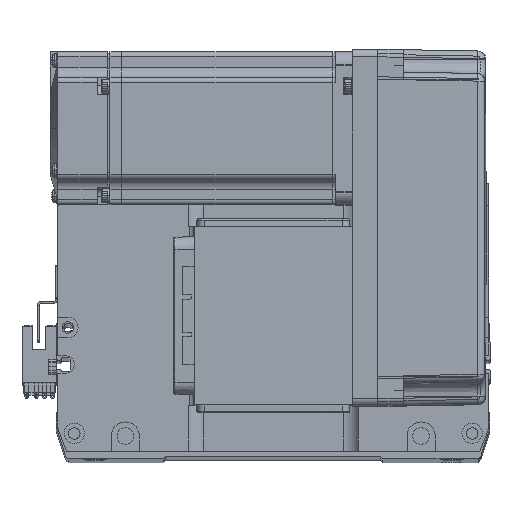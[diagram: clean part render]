
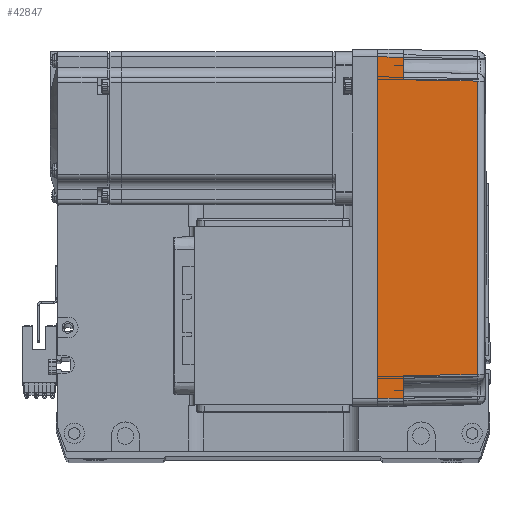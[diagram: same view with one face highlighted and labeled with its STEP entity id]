
A CAD part, top view. The second image highlights one B-rep face of the part: STEP entity #42847.
In plain terms, the highlighted planar face has unit normal (0.018, 0, 1) as drawn and (0, -1, 0.017) by its records, which use the part's own axes.
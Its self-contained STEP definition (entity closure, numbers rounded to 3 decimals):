
#1783 = EDGE_CURVE ( 'NONE', #51331, #27790, #35698, .T. ) ;
#1918 = ORIENTED_EDGE ( 'NONE', *, *, #46237, .T. ) ;
#1944 = LINE ( 'NONE', #39151, #51534 ) ;
#2743 = CARTESIAN_POINT ( 'NONE',  ( 58., -35.825, 10. ) ) ;
#5164 = VERTEX_POINT ( 'NONE', #47570 ) ;
#6365 = VECTOR ( 'NONE', #8735, 1000. ) ;
#8714 = CARTESIAN_POINT ( 'NONE',  ( 67., -36., 0. ) ) ;
#8735 = DIRECTION ( 'NONE',  ( -0.017, 0.017, 1. ) ) ;
#8877 = VECTOR ( 'NONE', #56650, 1000. ) ;
#9126 = VECTOR ( 'NONE', #17730, 1000. ) ;
#9420 = CARTESIAN_POINT ( 'NONE',  ( 0., -36., 0. ) ) ;
#12787 = CARTESIAN_POINT ( 'NONE',  ( 19.165, -35.316, 39.181 ) ) ;
#13085 = ORIENTED_EDGE ( 'NONE', *, *, #23920, .F. ) ;
#13782 = DIRECTION ( 'NONE',  ( -1., 0., 0. ) ) ;
#15356 = CARTESIAN_POINT ( 'NONE',  ( -67., -36., 0. ) ) ;
#17730 = DIRECTION ( 'NONE',  ( -1., 0., 0. ) ) ;
#18144 = LINE ( 'NONE', #18345, #9126 ) ;
#18345 = CARTESIAN_POINT ( 'NONE',  ( 70., -35.825, 10. ) ) ;
#18613 = EDGE_CURVE ( 'NONE', #5164, #51331, #28523, .T. ) ;
#18632 = CARTESIAN_POINT ( 'NONE',  ( 70., -35.825, 10. ) ) ;
#19173 = DIRECTION ( 'NONE',  ( 0., -0.017, -1. ) ) ;
#21001 = CARTESIAN_POINT ( 'NONE',  ( 57.495, -35.32, 38.985 ) ) ;
#21211 = ORIENTED_EDGE ( 'NONE', *, *, #36268, .T. ) ;
#22056 = VERTEX_POINT ( 'NONE', #27054 ) ;
#23586 = CARTESIAN_POINT ( 'NONE',  ( 70., -36., 0. ) ) ;
#23799 = PLANE ( 'NONE',  #54912 ) ;
#23821 = ORIENTED_EDGE ( 'NONE', *, *, #18613, .T. ) ;
#23849 = VECTOR ( 'NONE', #13782, 1000. ) ;
#23920 = EDGE_CURVE ( 'NONE', #51159, #37749, #44166, .T. ) ;
#24216 = EDGE_CURVE ( 'NONE', #58879, #5164, #48661, .T. ) ;
#24961 = EDGE_LOOP ( 'NONE', ( #57984, #28838, #23821, #59076, #21211, #1918, #27847, #13085 ) ) ;
#27054 = CARTESIAN_POINT ( 'NONE',  ( -58., -35.825, 10. ) ) ;
#27790 = VERTEX_POINT ( 'NONE', #43211 ) ;
#27847 = ORIENTED_EDGE ( 'NONE', *, *, #43458, .F. ) ;
#28523 = LINE ( 'NONE', #2743, #52466 ) ;
#28838 = ORIENTED_EDGE ( 'NONE', *, *, #24216, .T. ) ;
#31878 = LINE ( 'NONE', #37469, #6365 ) ;
#33289 = VERTEX_POINT ( 'NONE', #33929 ) ;
#33929 = CARTESIAN_POINT ( 'NONE',  ( -66.826, -35.825, 10. ) ) ;
#35232 = FACE_OUTER_BOUND ( 'NONE', #24961, .T. ) ;
#35698 = B_SPLINE_CURVE_WITH_KNOTS ( 'NONE', 3,
 ( #21001, #12787, #36913, #54543 ),
 .UNSPECIFIED., .F., .F.,
 ( 4, 4 ),
 ( 0., 1. ),
 .UNSPECIFIED. ) ;
#36268 = EDGE_CURVE ( 'NONE', #27790, #22056, #1944, .T. ) ;
#36346 = DIRECTION ( 'NONE',  ( -0.017, 0.017, 1. ) ) ;
#36913 = CARTESIAN_POINT ( 'NONE',  ( -19.165, -35.316, 39.181 ) ) ;
#37469 = CARTESIAN_POINT ( 'NONE',  ( 67., -36., 0. ) ) ;
#37749 = VERTEX_POINT ( 'NONE', #15356 ) ;
#39151 = CARTESIAN_POINT ( 'NONE',  ( -57.495, -35.32, 38.985 ) ) ;
#39383 = EDGE_CURVE ( 'NONE', #51159, #58879, #31878, .T. ) ;
#40439 = DIRECTION ( 'NONE',  ( 0.017, 0.017, 1. ) ) ;
#42847 = ADVANCED_FACE ( 'NONE', ( #35232 ), #23799, .T. ) ;
#43016 = CARTESIAN_POINT ( 'NONE',  ( 66.826, -35.825, 10. ) ) ;
#43211 = CARTESIAN_POINT ( 'NONE',  ( -57.495, -35.32, 38.985 ) ) ;
#43458 = EDGE_CURVE ( 'NONE', #37749, #33289, #62190, .T. ) ;
#44166 = LINE ( 'NONE', #9420, #8877 ) ;
#44194 = VECTOR ( 'NONE', #40439, 1000. ) ;
#44587 = DIRECTION ( 'NONE',  ( -0.017, -0.017, -1. ) ) ;
#46237 = EDGE_CURVE ( 'NONE', #22056, #33289, #18144, .T. ) ;
#47570 = CARTESIAN_POINT ( 'NONE',  ( 58., -35.825, 10. ) ) ;
#47912 = DIRECTION ( 'NONE',  ( 0., -1., 0.017 ) ) ;
#48661 = LINE ( 'NONE', #18632, #23849 ) ;
#51159 = VERTEX_POINT ( 'NONE', #8714 ) ;
#51331 = VERTEX_POINT ( 'NONE', #53109 ) ;
#51534 = VECTOR ( 'NONE', #44587, 1000. ) ;
#52466 = VECTOR ( 'NONE', #36346, 1000. ) ;
#53109 = CARTESIAN_POINT ( 'NONE',  ( 57.495, -35.32, 38.985 ) ) ;
#54543 = CARTESIAN_POINT ( 'NONE',  ( -57.495, -35.32, 38.985 ) ) ;
#54912 = AXIS2_PLACEMENT_3D ( 'NONE', #23586, #47912, #19173 ) ;
#56650 = DIRECTION ( 'NONE',  ( -1., 0., 0. ) ) ;
#57984 = ORIENTED_EDGE ( 'NONE', *, *, #39383, .T. ) ;
#58879 = VERTEX_POINT ( 'NONE', #43016 ) ;
#59076 = ORIENTED_EDGE ( 'NONE', *, *, #1783, .T. ) ;
#59506 = CARTESIAN_POINT ( 'NONE',  ( -66.959, -35.958, 2.39 ) ) ;
#62190 = LINE ( 'NONE', #59506, #44194 ) ;
